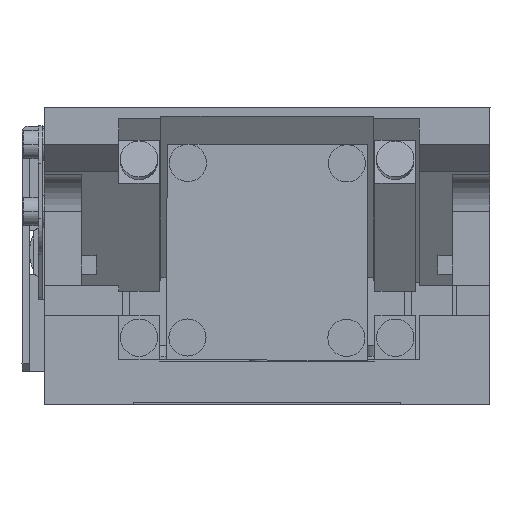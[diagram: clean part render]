
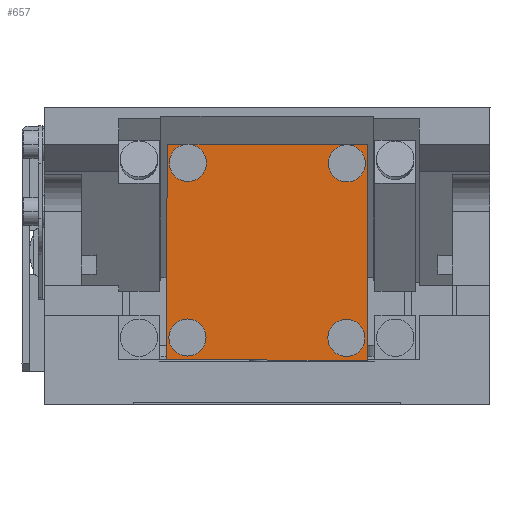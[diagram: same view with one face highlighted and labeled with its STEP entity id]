
A CAD part, left-side view. The second image highlights one B-rep face of the part: STEP entity #657.
In plain terms, the highlighted planar face has unit normal (-1, 0, 0).
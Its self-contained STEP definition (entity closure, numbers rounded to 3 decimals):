
#657=ADVANCED_FACE('',(#2372,#2373,#2374),#2375,.T.);
#2372=FACE_BOUND('',#5029,.T.);
#2373=FACE_OUTER_BOUND('',#5030,.T.);
#2374=FACE_BOUND('',#5031,.T.);
#2375=PLANE('',#5032);
#5029=EDGE_LOOP('',(#10177,#10178));
#5030=EDGE_LOOP('',(#10179,#10180,#10181,#10182,#10183,#10184,#10185,#10186,#10187,#10188,#10189,#10190));
#5031=EDGE_LOOP('',(#10191,#10192));
#5032=AXIS2_PLACEMENT_3D('',#10193,#10194,#10195);
#10177=ORIENTED_EDGE('',*,*,#17564,.T.);
#10178=ORIENTED_EDGE('',*,*,#17500,.T.);
#10179=ORIENTED_EDGE('',*,*,#17563,.F.);
#10180=ORIENTED_EDGE('',*,*,#17565,.T.);
#10181=ORIENTED_EDGE('',*,*,#17496,.T.);
#10182=ORIENTED_EDGE('',*,*,#17566,.T.);
#10183=ORIENTED_EDGE('',*,*,#17562,.F.);
#10184=ORIENTED_EDGE('',*,*,#17567,.T.);
#10185=ORIENTED_EDGE('',*,*,#17492,.T.);
#10186=ORIENTED_EDGE('',*,*,#17568,.T.);
#10187=ORIENTED_EDGE('',*,*,#17561,.F.);
#10188=ORIENTED_EDGE('',*,*,#17543,.T.);
#10189=ORIENTED_EDGE('',*,*,#17569,.T.);
#10190=ORIENTED_EDGE('',*,*,#17570,.T.);
#10191=ORIENTED_EDGE('',*,*,#17571,.T.);
#10192=ORIENTED_EDGE('',*,*,#17504,.T.);
#10193=CARTESIAN_POINT('',(-44.275,13.499,20.534));
#10194=DIRECTION('',(-1.0,0.,0.));
#10195=DIRECTION('',(0.,-1.,-0.002));
#17492=EDGE_CURVE('',#21269,#21266,#21270,.T.);
#17496=EDGE_CURVE('',#21277,#21274,#21278,.T.);
#17500=EDGE_CURVE('',#21285,#21282,#21286,.T.);
#17504=EDGE_CURVE('',#21293,#21290,#21294,.T.);
#17543=EDGE_CURVE('',#21366,#21364,#21367,.T.);
#17561=EDGE_CURVE('',#21366,#21398,#21399,.T.);
#17562=EDGE_CURVE('',#21398,#21400,#21401,.T.);
#17563=EDGE_CURVE('',#21400,#21394,#21402,.T.);
#17564=EDGE_CURVE('',#21282,#21285,#21403,.T.);
#17565=EDGE_CURVE('',#21400,#21277,#21404,.T.);
#17566=EDGE_CURVE('',#21274,#21400,#21405,.T.);
#17567=EDGE_CURVE('',#21398,#21269,#21406,.T.);
#17568=EDGE_CURVE('',#21266,#21398,#21407,.T.);
#17569=EDGE_CURVE('',#21364,#21408,#21409,.T.);
#17570=EDGE_CURVE('',#21408,#21394,#21410,.T.);
#17571=EDGE_CURVE('',#21290,#21293,#21411,.T.);
#21266=VERTEX_POINT('',#27105);
#21269=VERTEX_POINT('',#27109);
#21270=CIRCLE('',#27110,2.5);
#21274=VERTEX_POINT('',#27115);
#21277=VERTEX_POINT('',#27119);
#21278=CIRCLE('',#27120,2.5);
#21282=VERTEX_POINT('',#27125);
#21285=VERTEX_POINT('',#27129);
#21286=CIRCLE('',#27130,2.5);
#21290=VERTEX_POINT('',#27135);
#21293=VERTEX_POINT('',#27139);
#21294=CIRCLE('',#27140,2.5);
#21364=VERTEX_POINT('',#27248);
#21366=VERTEX_POINT('',#27251);
#21367=LINE('',#27252,#27253);
#21394=VERTEX_POINT('',#27292);
#21398=VERTEX_POINT('',#27298);
#21399=LINE('',#27299,#27300);
#21400=VERTEX_POINT('',#27301);
#21401=LINE('',#27302,#27303);
#21402=LINE('',#27304,#27305);
#21403=CIRCLE('',#27306,2.5);
#21404=CIRCLE('',#27307,2.5);
#21405=CIRCLE('',#27308,2.5);
#21406=CIRCLE('',#27309,2.5);
#21407=CIRCLE('',#27310,2.5);
#21408=VERTEX_POINT('',#27311);
#21409=LINE('',#27312,#27313);
#21410=LINE('',#27314,#27315);
#21411=CIRCLE('',#27316,2.5);
#27105=CARTESIAN_POINT('',(-44.275,13.169,32.533));
#27109=CARTESIAN_POINT('',(-44.275,8.169,32.52));
#27110=AXIS2_PLACEMENT_3D('',#33993,#33994,#33995);
#27115=CARTESIAN_POINT('',(-44.275,-8.231,32.48));
#27119=CARTESIAN_POINT('',(-44.275,-13.231,32.467));
#27120=AXIS2_PLACEMENT_3D('',#34001,#34002,#34003);
#27125=CARTESIAN_POINT('',(-44.275,-8.173,8.98));
#27129=CARTESIAN_POINT('',(-44.275,-13.173,8.967));
#27130=AXIS2_PLACEMENT_3D('',#34009,#34010,#34011);
#27135=CARTESIAN_POINT('',(-44.275,13.227,9.033));
#27139=CARTESIAN_POINT('',(-44.275,8.227,9.02));
#27140=AXIS2_PLACEMENT_3D('',#34017,#34018,#34019);
#27248=CARTESIAN_POINT('',(-44.275,13.535,6.034));
#27251=CARTESIAN_POINT('',(-44.275,13.463,35.034));
#27252=CARTESIAN_POINT('',(-44.275,13.499,20.534));
#27253=VECTOR('',#34086,1000.0);
#27292=CARTESIAN_POINT('',(-44.275,-13.537,34.966));
#27298=CARTESIAN_POINT('',(-44.275,10.663,35.027));
#27299=CARTESIAN_POINT('',(-44.275,13.463,35.034));
#27300=VECTOR('',#34110,1000.0);
#27301=CARTESIAN_POINT('',(-44.275,-10.737,34.973));
#27302=CARTESIAN_POINT('',(-44.275,13.463,35.034));
#27303=VECTOR('',#34111,1000.0);
#27304=CARTESIAN_POINT('',(-44.275,13.463,35.034));
#27305=VECTOR('',#34112,1000.0);
#27306=AXIS2_PLACEMENT_3D('',#34113,#34114,#34115);
#27307=AXIS2_PLACEMENT_3D('',#34116,#34117,#34118);
#27308=AXIS2_PLACEMENT_3D('',#34119,#34120,#34121);
#27309=AXIS2_PLACEMENT_3D('',#34122,#34123,#34124);
#27310=AXIS2_PLACEMENT_3D('',#34125,#34126,#34127);
#27311=CARTESIAN_POINT('',(-44.275,-13.465,5.966));
#27312=CARTESIAN_POINT('',(-44.275,13.535,6.034));
#27313=VECTOR('',#34128,1000.0);
#27314=CARTESIAN_POINT('',(-44.275,-13.501,20.466));
#27315=VECTOR('',#34129,1000.0);
#27316=AXIS2_PLACEMENT_3D('',#34130,#34131,#34132);
#33993=CARTESIAN_POINT('',(-44.275,10.669,32.527));
#33994=DIRECTION('',(1.0,0.,0.));
#33995=DIRECTION('',(0.,1.,0.002));
#34001=CARTESIAN_POINT('',(-44.275,-10.731,32.473));
#34002=DIRECTION('',(1.0,0.,0.));
#34003=DIRECTION('',(0.,1.,0.002));
#34009=CARTESIAN_POINT('',(-44.275,-10.673,8.973));
#34010=DIRECTION('',(1.0,0.,0.));
#34011=DIRECTION('',(0.,1.,0.002));
#34017=CARTESIAN_POINT('',(-44.275,10.727,9.027));
#34018=DIRECTION('',(1.0,0.,0.));
#34019=DIRECTION('',(0.,1.,0.002));
#34086=DIRECTION('',(0.,0.002,-1.));
#34110=DIRECTION('',(0.,-1.,-0.002));
#34111=DIRECTION('',(0.,-1.,-0.002));
#34112=DIRECTION('',(0.,-1.,-0.002));
#34113=CARTESIAN_POINT('',(-44.275,-10.673,8.973));
#34114=DIRECTION('',(1.0,0.,0.));
#34115=DIRECTION('',(0.,1.,0.002));
#34116=CARTESIAN_POINT('',(-44.275,-10.731,32.473));
#34117=DIRECTION('',(1.0,0.,0.));
#34118=DIRECTION('',(0.,1.,0.002));
#34119=CARTESIAN_POINT('',(-44.275,-10.731,32.473));
#34120=DIRECTION('',(1.0,0.,0.));
#34121=DIRECTION('',(0.,1.,0.002));
#34122=CARTESIAN_POINT('',(-44.275,10.669,32.527));
#34123=DIRECTION('',(1.0,0.,0.));
#34124=DIRECTION('',(0.,1.,0.002));
#34125=CARTESIAN_POINT('',(-44.275,10.669,32.527));
#34126=DIRECTION('',(1.0,0.,0.));
#34127=DIRECTION('',(0.,1.,0.002));
#34128=DIRECTION('',(0.,-1.,-0.002));
#34129=DIRECTION('',(0.,-0.002,1.));
#34130=CARTESIAN_POINT('',(-44.275,10.727,9.027));
#34131=DIRECTION('',(1.0,0.,0.));
#34132=DIRECTION('',(0.,1.,0.002));
